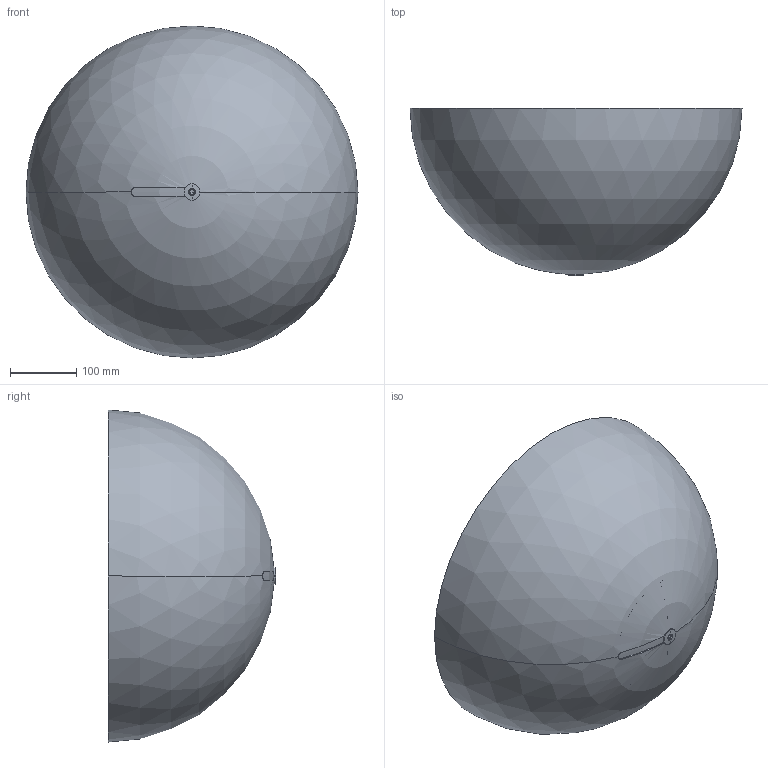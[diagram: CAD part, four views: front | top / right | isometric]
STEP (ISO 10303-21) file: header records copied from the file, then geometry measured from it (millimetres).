
FILE_DESCRIPTION((''),'2;1');
FILE_NAME('PRT0014','2025-05-14T09:00:07',('elena.baldelli'),(''),'CREO PARAMETRIC BY PTC INC, 2020354','CREO PARAMETRIC BY PTC INC, 2020354','');
FILE_SCHEMA(('CONFIG_CONTROL_DESIGN'));
Length unit declared in the file: millimetre
Products named in the file (1): PRT0014
Bounding box: 500 x 252.01 x 500 mm (x, y, z)
Surface area: 876676.4 mm2 (no closed solid volume)
Topology: 0 solids, 4 shells, 21 faces, 67 edges, 45 vertices
Faces by surface type: sphere 10, plane 4, cylinder 3, cone 2, torus 2
Entity records: 794 total; most frequent: DIRECTION 162, CARTESIAN_POINT 131, ORIENTED_EDGE 105, AXIS2_PLACEMENT_3D 76, EDGE_CURVE 65, CIRCLE 55, VERTEX_POINT 45, EDGE_LOOP 22
